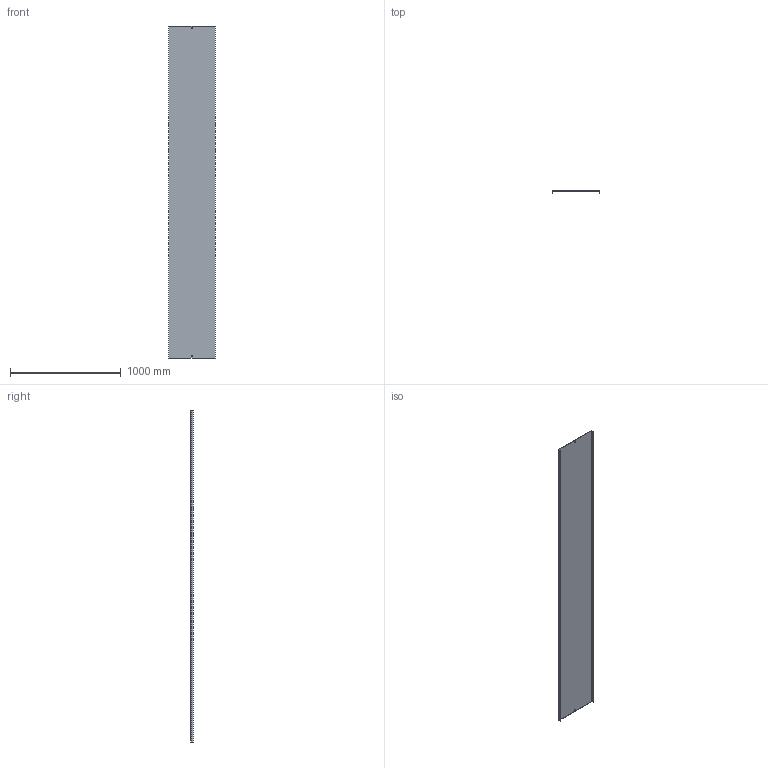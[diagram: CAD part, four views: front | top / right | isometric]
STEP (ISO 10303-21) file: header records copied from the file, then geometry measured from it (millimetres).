
FILE_DESCRIPTION (( 'STEP AP214' ), '1' );
FILE_NAME ('05G3P400.step', '2025-02-21T14:22:26', ( '' ), ( '' ), 'SwSTEP 2.0', 'SolidWorks 2023', '' );
FILE_SCHEMA (( 'AUTOMOTIVE_DESIGN' ));
Length unit declared in the file: millimetre
Products named in the file (1): 05G3P400
Bounding box: 423 x 20 x 3000 mm (x, y, z)
Volume: 2069824.5 mm3; surface area: 2770239 mm2
Topology: 1 solids, 1 shells, 18 faces, 48 edges, 32 vertices
Faces by surface type: plane 18
Entity records: 583 total; most frequent: CARTESIAN_POINT 99, ORIENTED_EDGE 96, DIRECTION 86, VECTOR 48, EDGE_CURVE 48, LINE 48, VERTEX_POINT 32, EDGE_LOOP 22
